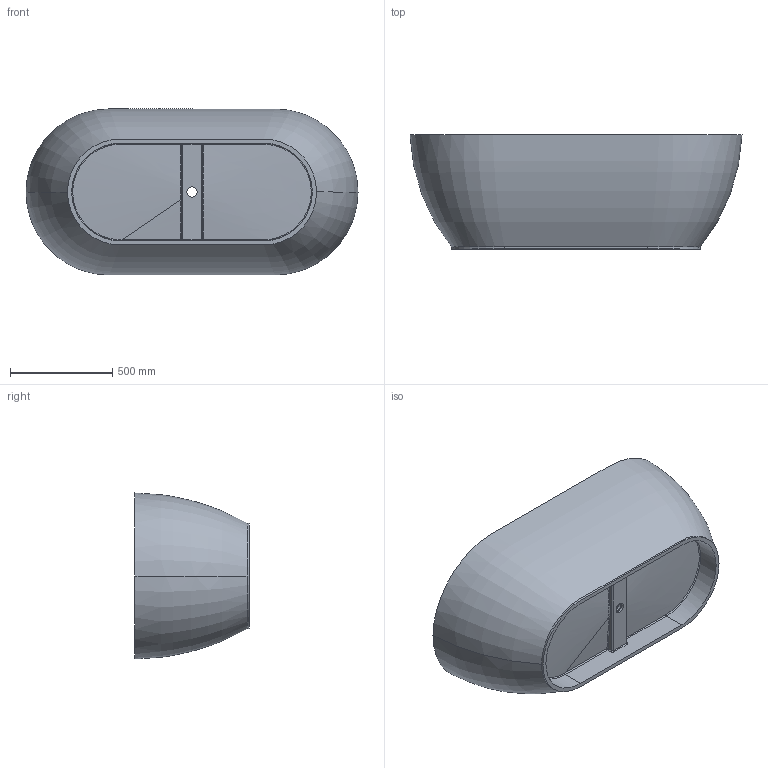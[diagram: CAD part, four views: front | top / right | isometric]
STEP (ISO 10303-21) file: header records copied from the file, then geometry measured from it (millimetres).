
FILE_DESCRIPTION (( 'STEP AP203' ), '1' );
FILE_NAME ('TC-S17.STEP', '2017-05-07T12:05:35', ( '旮僅薊襠http://www.deepbbs.org' ), ( 'http://www.deepbbs.org' ), 'SwSTEP 2.0', 'SolidWorks 2016', '' );
FILE_SCHEMA (( 'CONFIG_CONTROL_DESIGN' ));
Length unit declared in the file: millimetre
Products named in the file (1): TC-S17
Bounding box: 1624 x 558.1 x 812 mm (x, y, z)
Volume: 79248710.6 mm3; surface area: 5675616.8 mm2
Topology: 1 solids, 1 shells, 83 faces, 204 edges, 124 vertices
Faces by surface type: cylinder 28, bspline 21, plane 20, torus 8, sphere 4, cone 2
Entity records: 11417 total; most frequent: CARTESIAN_POINT 9488, ORIENTED_EDGE 408, DIRECTION 363, EDGE_CURVE 204, AXIS2_PLACEMENT_3D 145, VERTEX_POINT 124, EDGE_LOOP 88, ADVANCED_FACE 83
